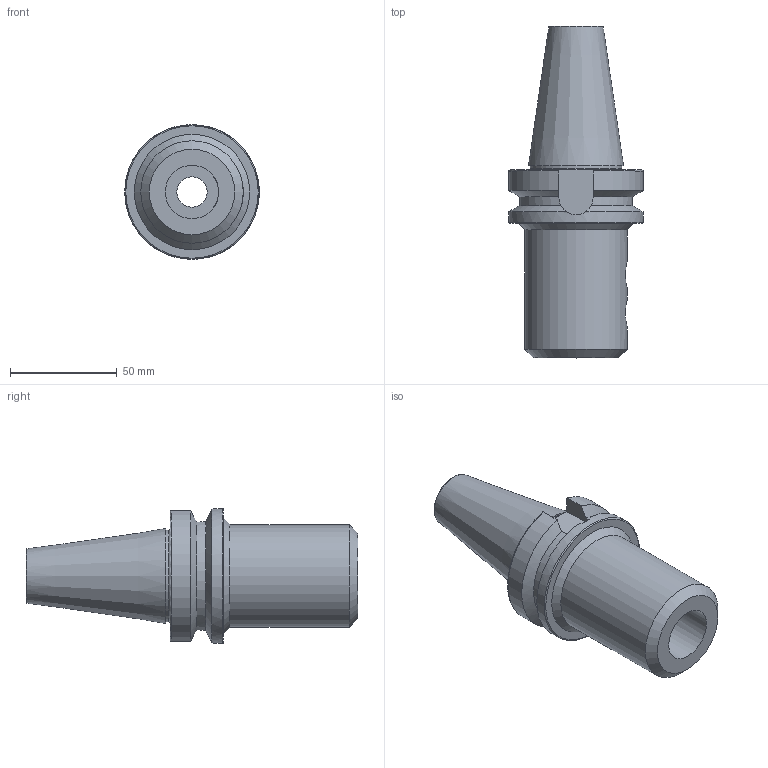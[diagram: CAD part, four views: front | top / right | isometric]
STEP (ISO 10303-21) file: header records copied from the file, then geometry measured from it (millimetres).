
FILE_DESCRIPTION(/* description */ (''),/* implementation_level */ '2;1');
FILE_NAME(/* name */ 'BT40-SLN25-90.stp',/* time_stamp */ '2025-06-11T11:36:28+03:00',/* author */ ('User'),/* organization */ (''),/* preprocessor_version */ 'ST-DEVELOPER v19.2',/* originating_system */ 'Autodesk Inventor 2024',/* authorisation */ '');
FILE_SCHEMA (('AUTOMOTIVE_DESIGN { 1 0 10303 214 3 1 1 }'));
Length unit declared in the file: millimetre
Products named in the file (1): BT40-FMB60-75
Bounding box: 63 x 155.4 x 63 mm (x, y, z)
Volume: 196737.6 mm3; surface area: 38432.1 mm2
Topology: 3 solids, 3 shells, 62 faces, 149 edges, 100 vertices
Faces by surface type: plane 31, cylinder 16, cone 8, torus 5, bspline 2
Full cylindrical faces by diameter (mm): 10.8 x2, 11 x2, 14.2 x1, 17 x1, 25 x1, 43 x1, 48 x1, 63 x1
Entity records: 2342 total; most frequent: CARTESIAN_POINT 796, ORIENTED_EDGE 298, DIRECTION 290, EDGE_CURVE 149, AXIS2_PLACEMENT_3D 108, VERTEX_POINT 100, EDGE_LOOP 75, LINE 74
